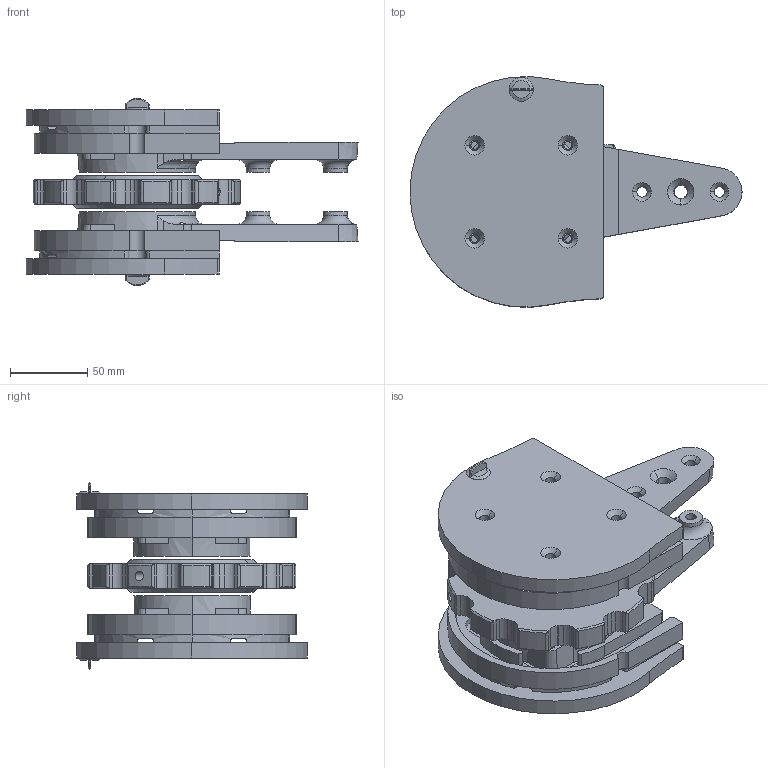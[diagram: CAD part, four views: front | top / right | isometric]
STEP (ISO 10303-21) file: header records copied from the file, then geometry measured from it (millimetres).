
FILE_DESCRIPTION (( 'STEP AP203' ), '1' );
FILE_NAME ('R2R.STEP', '2008-12-02T09:31:15', ( 'faber' ), ( '' ), 'SwSTEP 2.0', 'SolidWorks 2008', '' );
FILE_SCHEMA (( 'CONFIG_CONTROL_DESIGN' ));
Length unit declared in the file: millimetre
Products named in the file (1): R2R
Bounding box: 214.42 x 148.87 x 120.94 mm (x, y, z)
Surface area: 197082.2 mm2 (no closed solid volume)
Topology: 0 solids, 13 shells, 455 faces, 1429 edges, 974 vertices
Faces by surface type: cylinder 206, plane 141, cone 86, torus 14, bspline 8
Entity records: 17620 total; most frequent: CARTESIAN_POINT 4553, DIRECTION 2847, ORIENTED_EDGE 2600, EDGE_CURVE 1429, AXIS2_PLACEMENT_3D 1110, VERTEX_POINT 974, CIRCLE 662, VECTOR 627
